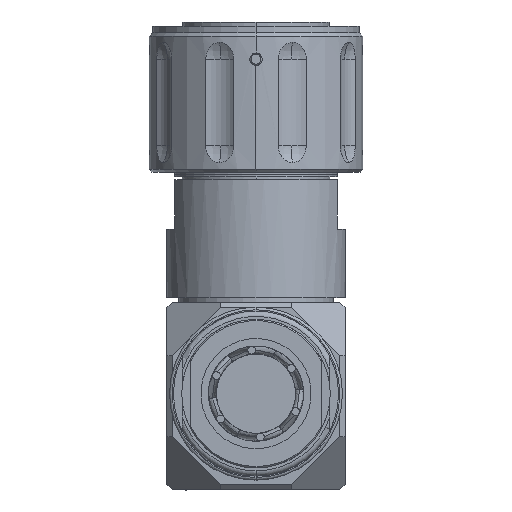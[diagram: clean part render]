
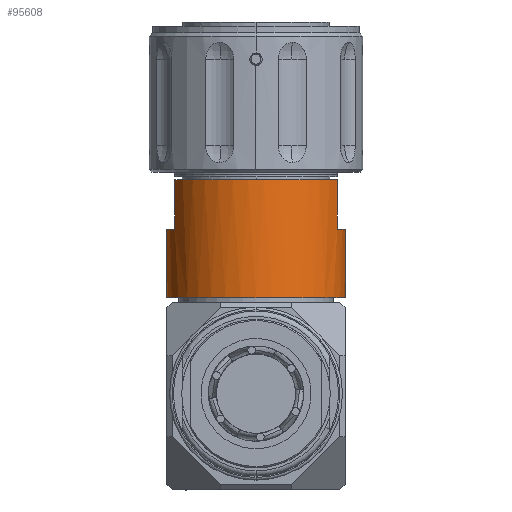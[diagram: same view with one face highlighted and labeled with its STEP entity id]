
A CAD part, front view. The second image highlights one B-rep face of the part: STEP entity #95608.
In plain terms, the highlighted cylindrical face has radius 17.272 mm (diameter 34.544 mm), a partial arc.
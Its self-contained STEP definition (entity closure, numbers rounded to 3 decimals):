
#3846 = DIRECTION ( 'NONE',  ( 0., 0., -1. ) ) ;
#5520 = DIRECTION ( 'NONE',  ( 1., 0., 0. ) ) ;
#6818 = ORIENTED_EDGE ( 'NONE', *, *, #7931, .F. ) ;
#7931 = EDGE_CURVE ( 'NONE', #52747, #90747, #30310, .T. ) ;
#9731 = VERTEX_POINT ( 'NONE', #65885 ) ;
#15081 = EDGE_CURVE ( 'NONE', #93386, #39826, #101324, .T. ) ;
#15930 = AXIS2_PLACEMENT_3D ( 'NONE', #56031, #3846, #5520 ) ;
#17251 = LINE ( 'NONE', #34276, #63251 ) ;
#18361 = DIRECTION ( 'NONE',  ( 1., 0., 0. ) ) ;
#23363 = AXIS2_PLACEMENT_3D ( 'NONE', #42803, #102908, #102351 ) ;
#23582 = CARTESIAN_POINT ( 'NONE',  ( 0., 0., -39.853 ) ) ;
#25735 = CARTESIAN_POINT ( 'NONE',  ( -17.272, 0., -39.853 ) ) ;
#26327 = DIRECTION ( 'NONE',  ( 0., 0., 1. ) ) ;
#26680 = CARTESIAN_POINT ( 'NONE',  ( -17.272, 0., -30.328 ) ) ;
#27435 = CARTESIAN_POINT ( 'NONE',  ( 0., 0., -39.853 ) ) ;
#28449 = EDGE_CURVE ( 'NONE', #52747, #51293, #65330, .T. ) ;
#29395 = FACE_OUTER_BOUND ( 'NONE', #110879, .T. ) ;
#29660 = CIRCLE ( 'NONE', #107454, 17.272 ) ;
#30310 = LINE ( 'NONE', #98365, #34235 ) ;
#31245 = ORIENTED_EDGE ( 'NONE', *, *, #58026, .F. ) ;
#32640 = ORIENTED_EDGE ( 'NONE', *, *, #45944, .T. ) ;
#33187 = CARTESIAN_POINT ( 'NONE',  ( 15.621, -7.369, -39.853 ) ) ;
#34235 = VECTOR ( 'NONE', #55277, 1000. ) ;
#34276 = CARTESIAN_POINT ( 'NONE',  ( -15.621, -7.369, -30.328 ) ) ;
#35687 = LINE ( 'NONE', #70288, #50892 ) ;
#36221 = CARTESIAN_POINT ( 'NONE',  ( 17.272, 0., -39.853 ) ) ;
#39826 = VERTEX_POINT ( 'NONE', #98907 ) ;
#41851 = ORIENTED_EDGE ( 'NONE', *, *, #28449, .T. ) ;
#42803 = CARTESIAN_POINT ( 'NONE',  ( 0., 0., -53.01 ) ) ;
#43633 = AXIS2_PLACEMENT_3D ( 'NONE', #57104, #65058, #72992 ) ;
#44441 = DIRECTION ( 'NONE',  ( 0., 0., 1. ) ) ;
#44901 = EDGE_CURVE ( 'NONE', #95108, #9731, #35687, .T. ) ;
#45028 = ORIENTED_EDGE ( 'NONE', *, *, #73728, .F. ) ;
#45304 = ORIENTED_EDGE ( 'NONE', *, *, #15081, .F. ) ;
#45944 = EDGE_CURVE ( 'NONE', #93386, #85213, #104362, .T. ) ;
#47011 = AXIS2_PLACEMENT_3D ( 'NONE', #27435, #44441, #18361 ) ;
#50892 = VECTOR ( 'NONE', #104874, 1000. ) ;
#51293 = VERTEX_POINT ( 'NONE', #108346 ) ;
#52747 = VERTEX_POINT ( 'NONE', #92628 ) ;
#55277 = DIRECTION ( 'NONE',  ( 0., 0., -1. ) ) ;
#56031 = CARTESIAN_POINT ( 'NONE',  ( 0., 0., -30.328 ) ) ;
#57104 = CARTESIAN_POINT ( 'NONE',  ( 0., 0., -30.328 ) ) ;
#58026 = EDGE_CURVE ( 'NONE', #39826, #51293, #17251, .T. ) ;
#62597 = EDGE_CURVE ( 'NONE', #9731, #85213, #72262, .T. ) ;
#63251 = VECTOR ( 'NONE', #26327, 1000. ) ;
#65058 = DIRECTION ( 'NONE',  ( 0., 0., -1. ) ) ;
#65330 = CIRCLE ( 'NONE', #43633, 17.272 ) ;
#65885 = CARTESIAN_POINT ( 'NONE',  ( 17.272, 0., -53.01 ) ) ;
#66681 = DIRECTION ( 'NONE',  ( 1., 0., 0. ) ) ;
#69402 = ORIENTED_EDGE ( 'NONE', *, *, #44901, .F. ) ;
#70288 = CARTESIAN_POINT ( 'NONE',  ( 17.272, 0., -30.328 ) ) ;
#72262 = CIRCLE ( 'NONE', #23363, 17.272 ) ;
#72992 = DIRECTION ( 'NONE',  ( 1., 0., 0. ) ) ;
#73728 = EDGE_CURVE ( 'NONE', #90747, #95108, #29660, .T. ) ;
#74158 = CYLINDRICAL_SURFACE ( 'NONE', #15930, 17.272 ) ;
#83559 = VECTOR ( 'NONE', #87349, 1000. ) ;
#85213 = VERTEX_POINT ( 'NONE', #105324 ) ;
#85926 = DIRECTION ( 'NONE',  ( 0., 0., 1. ) ) ;
#87349 = DIRECTION ( 'NONE',  ( 0., 0., -1. ) ) ;
#90747 = VERTEX_POINT ( 'NONE', #33187 ) ;
#92628 = CARTESIAN_POINT ( 'NONE',  ( 15.621, -7.369, -30.328 ) ) ;
#93386 = VERTEX_POINT ( 'NONE', #25735 ) ;
#94096 = ORIENTED_EDGE ( 'NONE', *, *, #62597, .F. ) ;
#95108 = VERTEX_POINT ( 'NONE', #36221 ) ;
#95608 = ADVANCED_FACE ( 'NONE', ( #29395 ), #74158, .T. ) ;
#98365 = CARTESIAN_POINT ( 'NONE',  ( 15.621, -7.369, -30.328 ) ) ;
#98907 = CARTESIAN_POINT ( 'NONE',  ( -15.621, -7.369, -39.853 ) ) ;
#101324 = CIRCLE ( 'NONE', #47011, 17.272 ) ;
#102351 = DIRECTION ( 'NONE',  ( 1., 0., 0. ) ) ;
#102908 = DIRECTION ( 'NONE',  ( 0., 0., -1. ) ) ;
#104362 = LINE ( 'NONE', #26680, #83559 ) ;
#104874 = DIRECTION ( 'NONE',  ( 0., 0., -1. ) ) ;
#105324 = CARTESIAN_POINT ( 'NONE',  ( -17.272, 0., -53.01 ) ) ;
#107454 = AXIS2_PLACEMENT_3D ( 'NONE', #23582, #85926, #66681 ) ;
#108346 = CARTESIAN_POINT ( 'NONE',  ( -15.621, -7.369, -30.328 ) ) ;
#110879 = EDGE_LOOP ( 'NONE', ( #45304, #32640, #94096, #69402, #45028, #6818, #41851, #31245 ) ) ;
